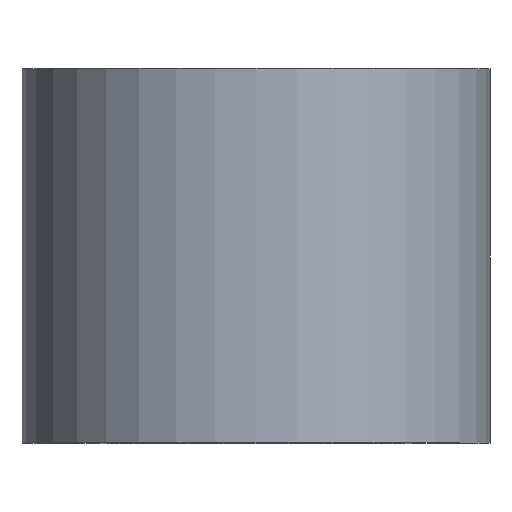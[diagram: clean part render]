
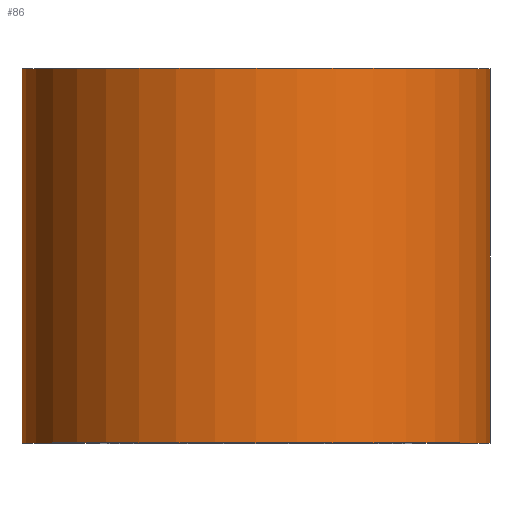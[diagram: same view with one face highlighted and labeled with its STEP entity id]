
A CAD part, top view. The second image highlights one B-rep face of the part: STEP entity #86.
In plain terms, the highlighted cylindrical face has radius 7.5 mm (diameter 15 mm), a partial arc.
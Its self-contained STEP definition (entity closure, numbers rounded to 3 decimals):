
#16 = DIRECTION ( 'NONE',  ( 0., 1., 0. ) ) ;
#27 = ORIENTED_EDGE ( 'NONE', *, *, #264, .T. ) ;
#38 = DIRECTION ( 'NONE',  ( -1., 0., 0. ) ) ;
#58 = LINE ( 'NONE', #237, #218 ) ;
#77 = VERTEX_POINT ( 'NONE', #228 ) ;
#79 = DIRECTION ( 'NONE',  ( 0., 1., 0. ) ) ;
#85 = CARTESIAN_POINT ( 'NONE',  ( 0., 0., 0. ) ) ;
#86 = ADVANCED_FACE ( 'NONE', ( #125 ), #114, .T. ) ;
#91 = EDGE_LOOP ( 'NONE', ( #27, #155, #209, #130 ) ) ;
#106 = CARTESIAN_POINT ( 'NONE',  ( -7.5, 12., 0. ) ) ;
#109 = VERTEX_POINT ( 'NONE', #106 ) ;
#113 = DIRECTION ( 'NONE',  ( 0., 1., 0. ) ) ;
#114 = CYLINDRICAL_SURFACE ( 'NONE', #116, 7.5 ) ;
#115 = CARTESIAN_POINT ( 'NONE',  ( 7.5, 12., 0. ) ) ;
#116 = AXIS2_PLACEMENT_3D ( 'NONE', #85, #253, #138 ) ;
#125 = FACE_OUTER_BOUND ( 'NONE', #91, .T. ) ;
#129 = EDGE_CURVE ( 'NONE', #175, #109, #293, .T. ) ;
#130 = ORIENTED_EDGE ( 'NONE', *, *, #129, .F. ) ;
#138 = DIRECTION ( 'NONE',  ( -1., 0., 0. ) ) ;
#140 = CARTESIAN_POINT ( 'NONE',  ( -7.5, 0., 0. ) ) ;
#143 = VECTOR ( 'NONE', #79, 1000. ) ;
#148 = EDGE_CURVE ( 'NONE', #109, #230, #219, .T. ) ;
#155 = ORIENTED_EDGE ( 'NONE', *, *, #214, .T. ) ;
#166 = DIRECTION ( 'NONE',  ( -1., 0., 0. ) ) ;
#168 = DIRECTION ( 'NONE',  ( 0., 1., 0. ) ) ;
#170 = CARTESIAN_POINT ( 'NONE',  ( 0., 0., 0. ) ) ;
#175 = VERTEX_POINT ( 'NONE', #140 ) ;
#189 = CARTESIAN_POINT ( 'NONE',  ( 0., 12., 0. ) ) ;
#208 = CARTESIAN_POINT ( 'NONE',  ( -7.5, 0., 0. ) ) ;
#209 = ORIENTED_EDGE ( 'NONE', *, *, #148, .F. ) ;
#214 = EDGE_CURVE ( 'NONE', #77, #230, #58, .T. ) ;
#217 = AXIS2_PLACEMENT_3D ( 'NONE', #189, #113, #38 ) ;
#218 = VECTOR ( 'NONE', #168, 1000. ) ;
#219 = CIRCLE ( 'NONE', #217, 7.5 ) ;
#226 = AXIS2_PLACEMENT_3D ( 'NONE', #170, #16, #166 ) ;
#228 = CARTESIAN_POINT ( 'NONE',  ( 7.5, 0., 0. ) ) ;
#230 = VERTEX_POINT ( 'NONE', #115 ) ;
#237 = CARTESIAN_POINT ( 'NONE',  ( 7.5, 0., 0. ) ) ;
#253 = DIRECTION ( 'NONE',  ( 0., 1., 0. ) ) ;
#264 = EDGE_CURVE ( 'NONE', #175, #77, #281, .T. ) ;
#281 = CIRCLE ( 'NONE', #226, 7.5 ) ;
#293 = LINE ( 'NONE', #208, #143 ) ;
